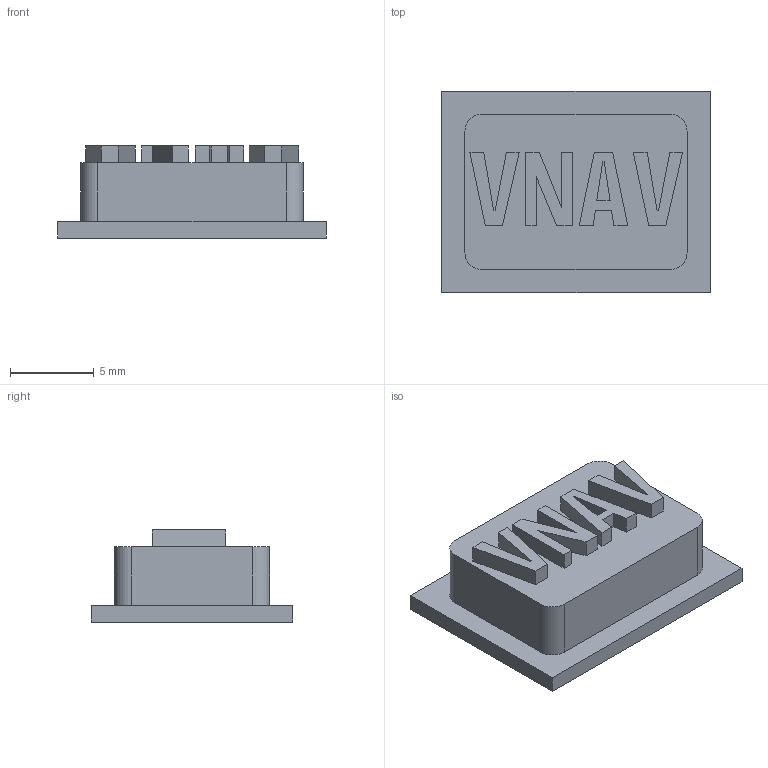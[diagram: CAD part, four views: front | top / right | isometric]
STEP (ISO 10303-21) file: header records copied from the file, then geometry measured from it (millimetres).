
FILE_DESCRIPTION(('FreeCAD Model'),'2;1');
FILE_NAME('E:/CAD Designs/Garmin/Final/CAD files/STEP/VNAV.step', '2021-02-27T13:00:59',('Author'),(''), 'Open CASCADE STEP processor 7.3','FreeCAD','Unknown');
FILE_SCHEMA(('AUTOMOTIVE_DESIGN { 1 0 10303 214 1 1 1 1 }'));
Length unit declared in the file: millimetre
Products named in the file (2): Body; Extrude
Bounding box: 16 x 12 x 5.5 mm (x, y, z)
Volume: 645.3 mm3; surface area: 728.4 mm2
Topology: 5 solids, 5 shells, 61 faces, 150 edges, 100 vertices
Faces by surface type: plane 57, cylinder 4
Entity records: 3792 total; most frequent: CARTESIAN_POINT 624, DIRECTION 580, LINE 434, VECTOR 434, ORIENTED_EDGE 300, PCURVE 300, DEFINITIONAL_REPRESENTATION 300, EDGE_CURVE 150
